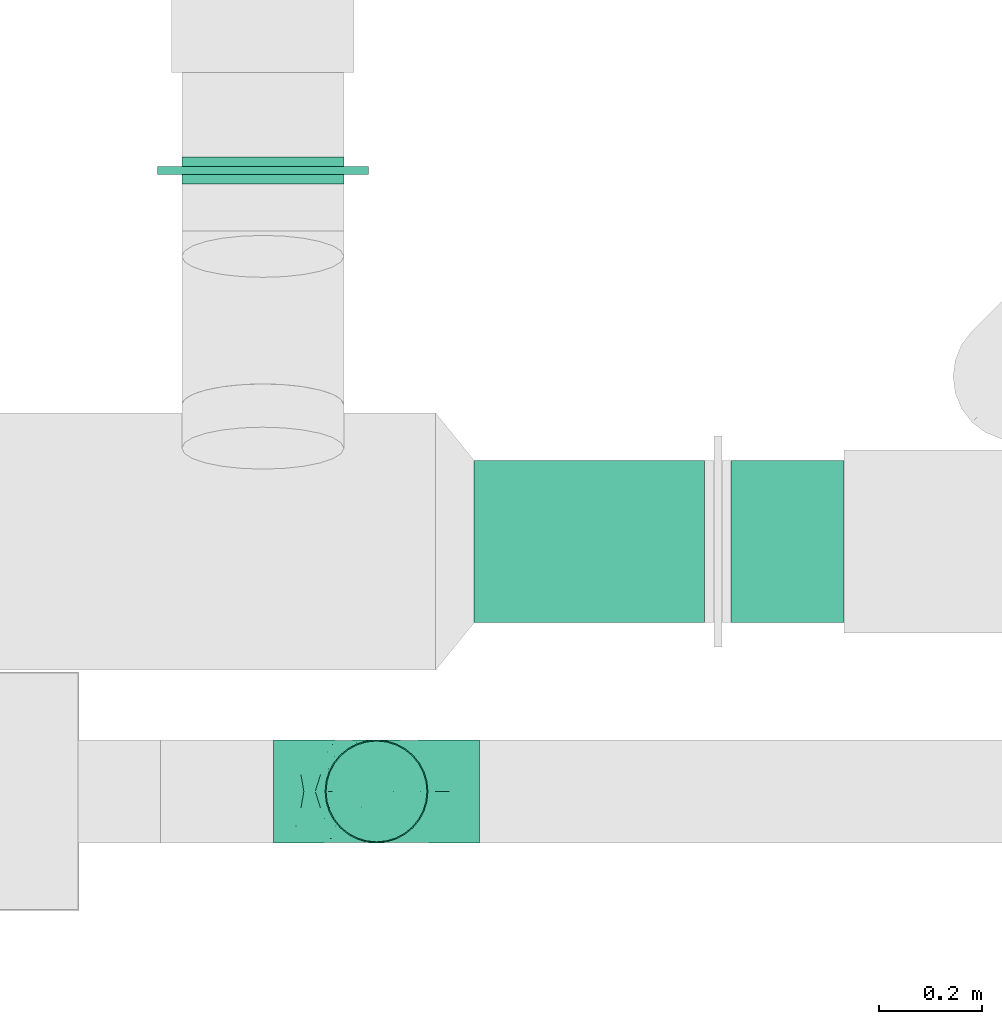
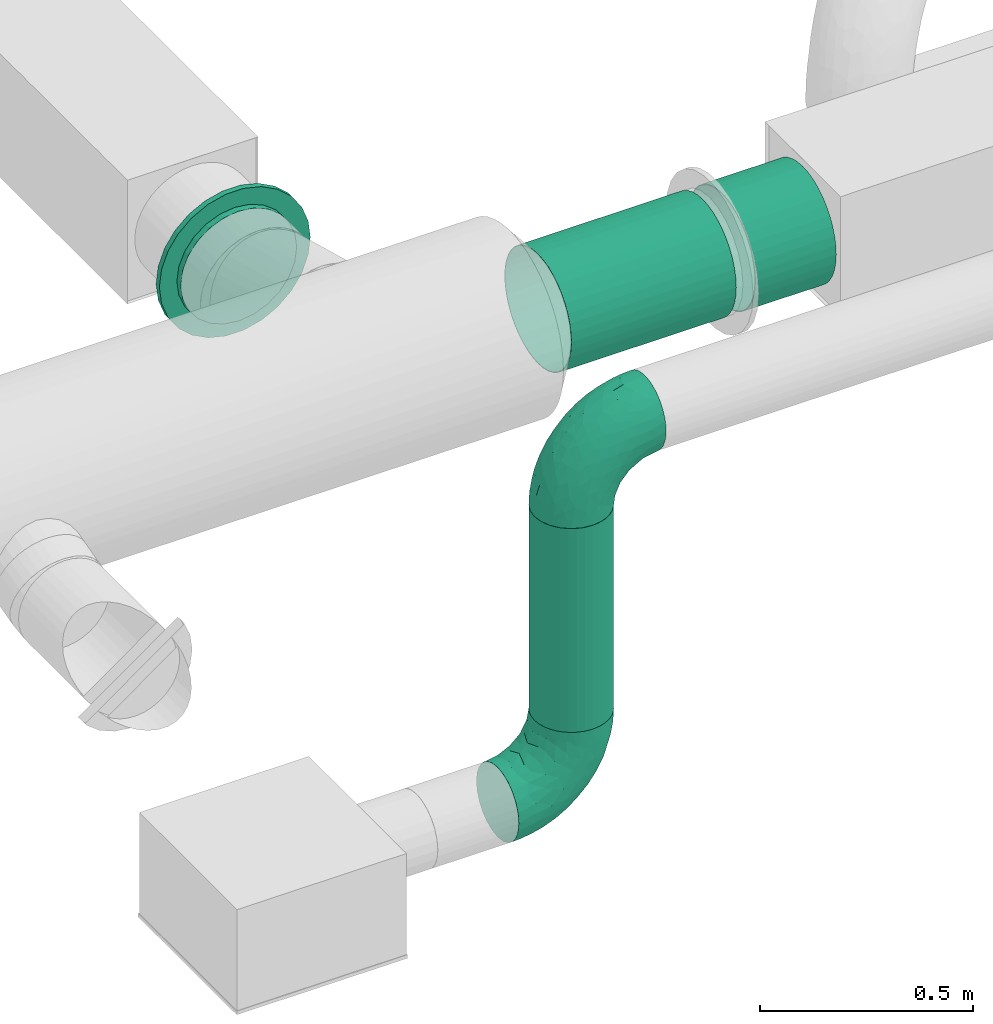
# One storey, part 19 of 31: 3 flow segments, 2 flow fittings, 1 flow controller.
"""IFC2X3 building model written with IfcOpenShell, lengths in millimetres."""

import ifcopenshell
import ifcopenshell.guid

model = None  # the IFC model being written
_history = None  # IfcOwnerHistory: only IFC2X3 demands one
_inside = {}  # id of a spatial element -> (the spatial element, [elements in it])
_under = {}  # id of a project, library or spatial element -> (it, [spatial elements below it])
_declared = {}  # id of a project -> (the project, [libraries it declares])
_typed = {}  # id of a type object -> (the type object, [elements of that type])
_made_of = {}  # id of a material, layer set ... -> (it, [elements and type objects made of it])


def new_model(schema):
    """Start an empty IFC model of exactly this schema.

    Asked for "IFC4X3", IfcOpenShell would pick the latest addendum, in which some entities
    have other attributes; the version numbers below select the first issue.
    IFC2X3 requires an IfcOwnerHistory on every rooted entity: one is made here for all.
    """
    global model, _history
    if schema == "IFC4X3":
        model = ifcopenshell.file(schema_version=(4, 3, 0, 0))
    else:
        model = ifcopenshell.file(schema=schema)
    _inside.clear()
    _under.clear()
    _declared.clear()
    _typed.clear()
    _made_of.clear()
    _history = None
    if model.schema == "IFC2X3":
        org = make("IfcOrganization", Name="unknown")
        user = make(
            "IfcPersonAndOrganization",
            ThePerson=make("IfcPerson", FamilyName="unknown"),
            TheOrganization=org,
        )
        app = make(
            "IfcApplication",
            ApplicationDeveloper=org,
            Version="unknown",
            ApplicationFullName="unknown",
            ApplicationIdentifier="unknown",
        )
        _history = make(
            "IfcOwnerHistory",
            OwningUser=user,
            OwningApplication=app,
            ChangeAction="ADDED",
            CreationDate=0,
        )
    return model


def make(cls, **values):
    """One entity of the class cls with the attributes given. An attribute that is None is left unset."""
    return model.create_entity(
        cls, **{name: value for name, value in values.items() if value is not None}
    )


def entity(cls, *values):
    """Any entity or typed value of the class cls, its attributes in the order of the schema. None: left unset."""
    e = model.create_entity(cls)
    for i, value in enumerate(values):
        if value is not None:
            e[i] = value
    return e


def rooted(cls, **values):
    """An entity with a GlobalId (a new one), such as an element, a storey or a relation."""
    return make(cls, GlobalId=ifcopenshell.guid.new(), OwnerHistory=_history, **values)


def si_unit(unit_type, name, prefix=None):
    """IfcSIUnit, for example si_unit("LENGTHUNIT", "METRE", prefix="MILLI")."""
    return make("IfcSIUnit", UnitType=unit_type, Prefix=prefix, Name=name)


def converted_unit(unit_type, name, factor, base, dimensions=None, offset=None):
    """IfcConversionBasedUnit, such as the inch: factor (a typed value) times the base unit."""
    return make(
        "IfcConversionBasedUnit"
        if offset is None
        else "IfcConversionBasedUnitWithOffset",
        ConversionOffset=offset,
        Dimensions=None
        if dimensions is None
        else entity("IfcDimensionalExponents", *dimensions),
        UnitType=unit_type,
        Name=name,
        ConversionFactor=make(
            "IfcMeasureWithUnit", ValueComponent=factor, UnitComponent=base
        ),
    )


def derived_unit(unit_type, elements):
    """IfcDerivedUnit: a product of units, each with its exponent."""
    return make(
        "IfcDerivedUnit",
        Elements=[
            make("IfcDerivedUnitElement", Unit=unit, Exponent=power)
            for unit, power in elements
        ],
        UnitType=unit_type,
    )


def assignment(units):
    """IfcUnitAssignment: the units of a project."""
    return None if units is None else make("IfcUnitAssignment", Units=units)


def point(xyz):
    """IfcCartesianPoint."""
    return None if xyz is None else make("IfcCartesianPoint", Coordinates=xyz)


def direction(xyz):
    """IfcDirection."""
    return None if xyz is None else make("IfcDirection", DirectionRatios=xyz)


def frame(location, z_axis=None, x_axis=None):
    """IfcAxis2Placement3D, a coordinate frame: its origin and axes. An axis left out is left unset."""
    return make(
        "IfcAxis2Placement3D",
        Location=point(location),
        Axis=direction(z_axis),
        RefDirection=direction(x_axis),
    )


def frame_2d(location, x_axis=None):
    """IfcAxis2Placement2D, a coordinate frame in the plane: its origin and x axis."""
    return make(
        "IfcAxis2Placement2D", Location=point(location), RefDirection=direction(x_axis)
    )


def origin_with_axes():
    """The frame at (0, 0, 0) with the z axis (0, 0, 1) and the x axis (1, 0, 0) written out."""
    return frame((0.0, 0.0, 0.0), z_axis=(0.0, 0.0, 1.0), x_axis=(1.0, 0.0, 0.0))


def origin_2d_with_axis():
    """The frame at (0, 0) in the plane with the x axis (1, 0) written out."""
    return frame_2d((0.0, 0.0), x_axis=(1.0, 0.0))


def place(relative_to, where):
    """IfcLocalPlacement: puts the frame where relative to a parent placement (None: the world)."""
    return make(
        "IfcLocalPlacement", PlacementRelTo=relative_to, RelativePlacement=where
    )


def context(
    kind, dimensions, precision=None, world=None, true_north=None, identifier=None
):
    """IfcGeometricRepresentationContext, for example the 3D "Model" context."""
    return make(
        "IfcGeometricRepresentationContext",
        ContextIdentifier=identifier,
        ContextType=kind,
        CoordinateSpaceDimension=dimensions,
        Precision=precision,
        WorldCoordinateSystem=world,
        TrueNorth=true_north,
    )


def subcontext(parent, identifier, kind, view, scale=None):
    """IfcGeometricRepresentationSubContext, for example "Body" below "Model"."""
    return make(
        "IfcGeometricRepresentationSubContext",
        ContextIdentifier=identifier,
        ContextType=kind,
        ParentContext=parent,
        TargetScale=scale,
        TargetView=view,
    )


def project(units=None, contexts=None):
    """IfcProject with its units and contexts."""
    return rooted(
        "IfcProject",
        Name="project",
        RepresentationContexts=contexts,
        UnitsInContext=assignment(units),
    )


def spatial(cls, under=None, at=None, **own):
    """A site, building, storey or space (cls), placed at a placement, below another one or the project."""
    s = rooted(cls, ObjectPlacement=at, **own)
    if under is not None:
        _under.setdefault(under.id(), (under, []))[1].append(s)
    return s


def profile(cls, at=None, kind="AREA", **sizes):
    """A parametric profile (cls). Its sizes go by their IFC names, for example OverallWidth=200.0."""
    return make(cls, ProfileType=kind, Position=at, **sizes)


def hollow_circle(**sizes):
    """IfcCircleHollowProfileDef."""
    return profile("IfcCircleHollowProfileDef", **sizes)


def extrude(swept, where, along, depth):
    """IfcExtrudedAreaSolid: the profile swept, set in the frame where, extruded along a direction by depth."""
    return make(
        "IfcExtrudedAreaSolid",
        SweptArea=swept,
        Position=where,
        ExtrudedDirection=direction(along),
        Depth=depth,
    )


def faces_of(points, faces, orient=None, outer=None):
    """IfcFace entities. A face is a list of loops; a loop is a list of indices into points, from 0.

    orient and outer hold one flag for each loop. By default every Orientation is true, the
    first loop of a face is its IfcFaceOuterBound and the others are IfcFaceBound.
    """
    made = []
    for i, loops in enumerate(faces):
        bounds = []
        for j, loop in enumerate(loops):
            is_outer = j == 0 if outer is None else outer[i][j]
            bounds.append(
                make(
                    "IfcFaceOuterBound" if is_outer else "IfcFaceBound",
                    Bound=make("IfcPolyLoop", Polygon=[points[k] for k in loop]),
                    Orientation=True if orient is None else orient[i][j],
                )
            )
        made.append(make("IfcFace", Bounds=bounds))
    return made


def open_shell(faces, orient=None, outer=None):
    """The faces of one IfcOpenShell. surface_model builds it on its shared points."""
    return ("IfcOpenShell", faces, orient, outer)


def surface_model(cls, points, shells):
    """IfcFaceBasedSurfaceModel or IfcShellBasedSurfaceModel (cls): surfaces that need not close."""
    shared = [point(p) for p in points]
    made = [make(c, CfsFaces=faces_of(shared, fs, o, b)) for c, fs, o, b in shells]
    if cls == "IfcFaceBasedSurfaceModel":
        return make(cls, FbsmFaces=made)
    return make(cls, SbsmBoundary=made)


def shape(context_of_items, identifier, shape_type, items):
    """IfcShapeRepresentation: the items that make up one representation, for example the "Body"."""
    return make(
        "IfcShapeRepresentation",
        ContextOfItems=context_of_items,
        RepresentationIdentifier=identifier,
        RepresentationType=shape_type,
        Items=items,
    )


def source(mapping_origin, context_of_items, identifier, shape_type, items):
    """IfcRepresentationMap: a shape defined once, which mapped items show again and again."""
    return make(
        "IfcRepresentationMap",
        MappingOrigin=mapping_origin,
        MappedRepresentation=shape(context_of_items, identifier, shape_type, items),
    )


def transform(
    local_origin,
    x_axis=None,
    y_axis=None,
    z_axis=None,
    scale=None,
    scale2=None,
    scale3=None,
    uniform=True,
):
    """IfcCartesianTransformationOperator3D, or its non-uniform kind. x_axis, y_axis, z_axis: its Axis1, 2, 3."""
    if uniform:
        return make(
            "IfcCartesianTransformationOperator3D",
            Axis1=direction(x_axis),
            Axis2=direction(y_axis),
            LocalOrigin=point(local_origin),
            Scale=scale,
            Axis3=direction(z_axis),
        )
    return make(
        "IfcCartesianTransformationOperator3DnonUniform",
        Axis1=direction(x_axis),
        Axis2=direction(y_axis),
        LocalOrigin=point(local_origin),
        Scale=scale,
        Axis3=direction(z_axis),
        Scale2=scale2,
        Scale3=scale3,
    )


def mapped(mapping_source, mapping_target):
    """IfcMappedItem: shows the shape of a source again, moved by a transform."""
    return make(
        "IfcMappedItem", MappingSource=mapping_source, MappingTarget=mapping_target
    )


def made_of(thing, what):
    """Note that an element or type object is made of a material, layer set ...; save() writes the relation."""
    if what is not None:
        _made_of.setdefault(what.id(), (what, []))[1].append(thing)
    return thing


def type_object(cls, material=None, **own):
    """A type object (cls), such as IfcWallType, which elements share."""
    return made_of(rooted(cls, **own), material)


def element(
    cls,
    number,
    at=None,
    inside=None,
    cuts=None,
    type_object=None,
    material=None,
    context=None,
    identifier="Body",
    shape_type=None,
    held_by="IfcProductDefinitionShape",
    body=None,
    shapes=None,
    **own,
):
    """One element of the class cls, such as IfcWall. Its Tag is "e" and its number.

    at: its placement. inside: the storey or other place that contains it. cuts: it is an
    opening in that element (IfcRelVoidsElement). A single representation is given by context,
    identifier, shape_type and body (its items); several are given by shapes. held_by: the class
    of the entity that holds the representations. save() writes the other relations.
    """
    e = rooted(cls, Tag="e%d" % number, ObjectPlacement=at, **own)
    if body is not None:
        shapes = [shape(context, identifier, shape_type, body)]
    if shapes is not None:
        e.Representation = make(held_by, Representations=shapes)
    if inside is not None:
        _inside.setdefault(inside.id(), (inside, []))[1].append(e)
    if cuts is not None:
        rooted(
            "IfcRelVoidsElement", RelatingBuildingElement=cuts, RelatedOpeningElement=e
        )
    if type_object is not None:
        _typed.setdefault(type_object.id(), (type_object, []))[1].append(e)
    return made_of(e, material)


def aggregate(whole, parts):
    """IfcRelAggregates: a whole, such as a stair, and the parts it consists of."""
    return rooted("IfcRelAggregates", RelatingObject=whole, RelatedObjects=parts)


def save(model, path):
    """Write the relations noted so far, then the file.

    IfcRelAggregates (storeys below a building ...), IfcRelContainedInSpatialStructure (elements
    in a storey), IfcRelDefinesByType, IfcRelAssociatesMaterial and IfcRelDeclares: one each for
    every whole, place, type object, material and project.
    """
    for whole, parts in _under.values():
        aggregate(whole, parts)
    for where, things in _inside.values():
        rooted(
            "IfcRelContainedInSpatialStructure",
            RelatedElements=things,
            RelatingStructure=where,
        )
    for kind, things in _typed.values():
        rooted("IfcRelDefinesByType", RelatedObjects=things, RelatingType=kind)
    for what, things in _made_of.values():
        rooted("IfcRelAssociatesMaterial", RelatedObjects=things, RelatingMaterial=what)
    for by, libraries in _declared.values():
        rooted("IfcRelDeclares", RelatingContext=by, RelatedDefinitions=libraries)
    model.write(path)


model = new_model("IFC2X3")

# Units and contexts
model_context = context("Model", 3, precision=0.01, world=frame((0.0, 4.29681676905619e-09, 0.0)), true_north=direction((4.01073788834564e-13, 1.0)))
plan_context = context("Plan", 3, precision=0.01, world=frame((0.0, 4.29681676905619e-09, 0.0)), true_north=direction((4.01073788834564e-13, 1.0)))
body_context = subcontext(model_context, "Body", "Model", "MODEL_VIEW")
ifc_project = project(units=[converted_unit("PLANEANGLEUNIT", "DEGREE", entity("IfcPositiveLengthMeasure", 0.0174532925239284), si_unit("PLANEANGLEUNIT", "RADIAN"), dimensions=[0, 0, 0, 0, 0, 0, 0]), si_unit("AREAUNIT", "SQUARE_METRE"), si_unit("LENGTHUNIT", "METRE", prefix="MILLI"), si_unit("MASSUNIT", "GRAM", prefix="KILO"), si_unit("POWERUNIT", "WATT"), si_unit("PRESSUREUNIT", "PASCAL", prefix="KILO"), si_unit("FORCEUNIT", "NEWTON", prefix="KILO"), si_unit("ELECTRICVOLTAGEUNIT", "VOLT"), si_unit("ELECTRICCURRENTUNIT", "AMPERE"), si_unit("THERMODYNAMICTEMPERATUREUNIT", "DEGREE_CELSIUS"), si_unit("TIMEUNIT", "SECOND"), si_unit("VOLUMEUNIT", "CUBIC_METRE"), derived_unit("LINEARVELOCITYUNIT", [(si_unit("LENGTHUNIT", "METRE"), 1), (si_unit("TIMEUNIT", "SECOND"), -1)]), derived_unit("VOLUMETRICFLOWRATEUNIT", [(si_unit("VOLUMEUNIT", "CUBIC_METRE"), 1), (si_unit("TIMEUNIT", "SECOND"), -1)]), derived_unit("THERMALTRANSMITTANCEUNIT", [(si_unit("POWERUNIT", "WATT"), 1), (si_unit("THERMODYNAMICTEMPERATUREUNIT", "KELVIN"), -1), (si_unit("AREAUNIT", "SQUARE_METRE"), -1)]), derived_unit("SOUNDPRESSUREUNIT", [(si_unit("PRESSUREUNIT", "PASCAL"), 1)])], contexts=[model_context, plan_context])

# Site, building, storey
site_placement = place(None, frame((0.0, -4.29681676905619e-09, 0.0), z_axis=(0.0, 0.0, 1.0), x_axis=(1.0, 0.0, 0.0)))
site = spatial("IfcSite", under=ifc_project, at=site_placement, CompositionType="ELEMENT")
building_placement = place(site_placement, frame((0.0, 4.29681676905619e-09, 0.0), z_axis=(0.0, 0.0, 1.0), x_axis=(1.0, 0.0, 0.0)))
building = spatial("IfcBuilding", under=site, at=building_placement, Name="mc-building", CompositionType="ELEMENT")
storey_placement = place(building_placement, frame((0.0, 0.0, 210900.0), z_axis=(0.0, 0.0, 1.0), x_axis=(1.0, 0.0, 0.0)))
storey = spatial("IfcBuildingStorey", under=building, at=storey_placement, Name="Nivå F", CompositionType="ELEMENT", Elevation=210900.0)

# Flow controller
damper_type = type_object("IfcDamperType", Name="IRIS-031", PredefinedType="BALANCINGDAMPER")
shared_shape_1 = source(origin_with_axes(), body_context, "Body", "SurfaceModel", [
    surface_model("IfcShellBasedSurfaceModel", [(26.0, 78.75, -136.39901), (26.0, 0.0, -157.5), (26.0, 40.764, -152.13332), (26.0, 111.36932, -111.36932), (26.0, -111.36932, -111.36932), (26.0, 152.13332, 40.764), (26.0, 152.13332, -40.764), (26.0, 136.39901, -78.75), (26.0, -78.75, -136.39901), (26.0, -40.764, -152.13332), (26.0, -152.13332, -40.764), (26.0, -136.39901, -78.75), (26.0, 0.0, 157.5), (26.0, 157.5, 0.0), (26.0, 136.39901, 78.75), (26.0, 111.36932, 111.36932), (26.0, 78.75, 136.39901), (26.0, 40.764, 152.13332), (26.0, -40.764, 152.13332), (26.0, -152.13332, 40.764), (26.0, -136.39901, 78.75), (26.0, -157.5, 0.0), (26.0, -78.75, 136.39901), (26.0, -111.36932, 111.36932), (7.8, 0.0, 157.5), (7.8, 40.764, 152.13332), (7.8, 78.75, 136.39901), (7.8, 152.13332, 40.764), (7.8, 111.36932, 111.36932), (7.8, 136.39901, 78.75), (7.8, -152.13332, 40.764), (7.8, -78.75, 136.39901), (7.8, -136.39901, 78.75), (7.8, -111.36932, 111.36932), (7.8, -40.764, 152.13332), (7.8, -111.36932, -111.36932), (7.8, -157.5, 0.0), (7.8, 152.13332, -40.764), (7.8, 111.36932, -111.36932), (7.8, 136.39901, -78.75), (7.8, -78.75, -136.39901), (7.8, 78.75, -136.39901), (7.8, 0.0, -157.5), (7.8, 40.764, -152.13332), (7.8, -136.39901, -78.75), (7.8, -152.13332, -40.764), (7.8, -40.764, -152.13332), (7.8, 157.5, 0.0), (7.8, 116.45328, -168.71169), (7.8, -24.71002, -203.50531), (7.8, 72.694, -191.67833), (7.8, 181.51848, -95.26825), (7.8, 153.4447, -135.94015), (7.8, 199.04307, -49.05971), (7.8, 205.0, 0.0), (7.8, 199.04307, 49.05971), (7.8, -116.45328, 168.71169), (7.8, -181.51848, -95.26825), (7.8, -116.45328, -168.71169), (7.8, -72.694, -191.67833), (7.8, 24.71002, -203.50531), (7.8, -153.4447, -135.94015), (7.8, -205.0, 0.0), (7.8, -199.04307, -49.05971), (7.8, 181.51848, 95.26825), (7.8, 153.4447, 135.94015), (7.8, 116.45328, 168.71169), (7.8, 72.694, 191.67833), (7.8, 24.71002, 203.50531), (7.8, -24.71002, 203.50531), (7.8, -181.51848, 95.26825), (7.8, -199.04307, 49.05971), (7.8, -153.4447, 135.94015), (7.8, -72.694, 191.67833), (-7.8, 24.71002, 203.50531), (-7.8, 72.694, 191.67833), (-7.8, 116.45328, 168.71169), (-7.8, -24.71002, 203.50531), (-7.8, 153.4447, 135.94015), (-7.8, 181.51848, 95.26825), (-7.8, 199.04307, 49.05971), (-7.8, -116.45328, 168.71169), (-7.8, -72.694, 191.67833), (-7.8, -181.51848, 95.26825), (-7.8, -153.4447, 135.94015), (-7.8, -205.0, 0.0), (-7.8, -199.04307, 49.05971), (-7.8, 205.0, 0.0), (-7.8, 199.04307, -49.05971), (-7.8, 181.51848, -95.26825), (-7.8, 116.45328, -168.71169), (-7.8, -116.45328, -168.71169), (-7.8, 153.4447, -135.94015), (-7.8, -24.71002, -203.50531), (-7.8, 72.694, -191.67833), (-7.8, -181.51848, -95.26825), (-7.8, -153.4447, -135.94015), (-7.8, -199.04307, -49.05971), (-7.8, -72.694, -191.67833), (-7.8, 24.71002, -203.50531), (-7.8, 78.75, -136.39901), (-7.8, 0.0, -157.5), (-7.8, 40.764, -152.13332), (-7.8, 111.36932, -111.36932), (-7.8, -111.36932, -111.36932), (-7.8, 152.13332, 40.764), (-7.8, 152.13332, -40.764), (-7.8, 136.39901, -78.75), (-7.8, -78.75, -136.39901), (-7.8, -40.764, -152.13332), (-7.8, -152.13332, -40.764), (-7.8, -136.39901, -78.75), (-7.8, 0.0, 157.5), (-7.8, 157.5, 0.0), (-7.8, 136.39901, 78.75), (-7.8, 111.36932, 111.36932), (-7.8, 78.75, 136.39901), (-7.8, 40.764, 152.13332), (-7.8, -40.764, 152.13332), (-7.8, -152.13332, 40.764), (-7.8, -136.39901, 78.75), (-7.8, -157.5, 0.0), (-7.8, -78.75, 136.39901), (-7.8, -111.36932, 111.36932), (-26.0, 0.0, 157.5), (-26.0, 40.764, 152.13332), (-26.0, 78.75, 136.39901), (-26.0, 152.13332, 40.764), (-26.0, 111.36932, 111.36932), (-26.0, 136.39901, 78.75), (-26.0, -152.13332, 40.764), (-26.0, -78.75, 136.39901), (-26.0, -136.39901, 78.75), (-26.0, -111.36932, 111.36932), (-26.0, -40.764, 152.13332), (-26.0, -111.36932, -111.36932), (-26.0, -157.5, 0.0), (-26.0, 152.13332, -40.764), (-26.0, 111.36932, -111.36932), (-26.0, 136.39901, -78.75), (-26.0, -78.75, -136.39901), (-26.0, 78.75, -136.39901), (-26.0, 0.0, -157.5), (-26.0, 40.764, -152.13332), (-26.0, -136.39901, -78.75), (-26.0, -152.13332, -40.764), (-26.0, -40.764, -152.13332), (-26.0, 157.5, 0.0)], [open_shell([[[0, 1, 2]], [[3, 4, 0]], [[5, 4, 3]], [[6, 3, 7]], [[5, 3, 6]], [[1, 8, 9]], [[1, 0, 8]], [[4, 10, 11]], [[8, 0, 4]], [[4, 12, 10]], [[6, 13, 5]], [[5, 14, 15]], [[5, 15, 16]], [[16, 17, 12]], [[16, 12, 5]], [[12, 18, 10]], [[19, 18, 20]], [[19, 21, 10]], [[20, 22, 23]], [[22, 20, 18]], [[18, 19, 10]], [[4, 5, 12]], [[24, 25, 26]], [[24, 26, 27]], [[28, 29, 27]], [[28, 27, 26]], [[24, 27, 30]], [[31, 32, 33]], [[32, 31, 34]], [[34, 30, 32]], [[34, 24, 30]], [[30, 35, 36]], [[30, 27, 35]], [[27, 37, 35]], [[38, 37, 39]], [[40, 38, 41]], [[37, 38, 40]], [[42, 41, 43]], [[36, 44, 45]], [[35, 44, 36]], [[40, 42, 46]], [[40, 35, 37]], [[42, 40, 41]], [[37, 27, 47]], [[45, 10, 36]], [[44, 11, 45]], [[8, 35, 40]], [[44, 35, 4]], [[9, 40, 46]], [[45, 11, 10]], [[10, 21, 36]], [[9, 8, 40]], [[4, 35, 8]], [[4, 11, 44]], [[1, 9, 46]], [[46, 42, 1]], [[43, 2, 42]], [[41, 0, 43]], [[7, 38, 39]], [[41, 38, 3]], [[6, 39, 37]], [[41, 3, 0]], [[0, 2, 43]], [[13, 6, 37]], [[7, 39, 6]], [[7, 3, 38]], [[47, 13, 37]], [[42, 2, 1]], [[27, 5, 47]], [[29, 14, 27]], [[16, 28, 26]], [[29, 28, 15]], [[17, 26, 25]], [[27, 14, 5]], [[5, 13, 47]], [[17, 16, 26]], [[15, 28, 16]], [[15, 14, 29]], [[12, 17, 25]], [[25, 24, 12]], [[18, 24, 34]], [[20, 32, 30]], [[32, 23, 33]], [[19, 30, 36]], [[34, 22, 18]], [[22, 34, 31]], [[22, 31, 23]], [[31, 33, 23]], [[32, 20, 23]], [[19, 20, 30]], [[36, 21, 19]], [[24, 18, 12]], [[48, 49, 50]], [[51, 48, 52]], [[51, 53, 54]], [[48, 51, 55]], [[56, 57, 48]], [[49, 58, 59]], [[49, 60, 50]], [[61, 58, 57]], [[58, 49, 48]], [[58, 48, 57]], [[57, 62, 63]], [[54, 55, 51]], [[55, 64, 65]], [[55, 65, 66]], [[66, 67, 68]], [[55, 66, 56]], [[69, 66, 68]], [[62, 70, 71]], [[70, 62, 72]], [[73, 56, 66]], [[72, 62, 56]], [[57, 56, 62]], [[69, 73, 66]], [[56, 48, 55]], [[74, 75, 76]], [[77, 74, 76]], [[78, 79, 80]], [[78, 80, 76]], [[81, 76, 80]], [[76, 82, 77]], [[76, 81, 82]], [[83, 84, 85]], [[85, 86, 83]], [[84, 81, 85]], [[80, 85, 81]], [[80, 87, 85]], [[87, 88, 89]], [[87, 89, 90]], [[87, 90, 91]], [[90, 89, 92]], [[93, 90, 94]], [[95, 91, 96]], [[97, 85, 95]], [[91, 95, 87]], [[98, 91, 93]], [[90, 93, 91]], [[99, 93, 94]], [[95, 85, 87]], [[97, 63, 85]], [[95, 57, 97]], [[58, 96, 91]], [[91, 98, 59]], [[95, 96, 61]], [[93, 49, 98]], [[97, 57, 63]], [[63, 62, 85]], [[59, 58, 91]], [[61, 96, 58]], [[61, 57, 95]], [[49, 59, 98]], [[93, 60, 49]], [[94, 50, 99]], [[90, 48, 94]], [[89, 88, 51]], [[90, 92, 52]], [[88, 87, 53]], [[92, 89, 52]], [[94, 48, 50]], [[50, 60, 99]], [[51, 52, 89]], [[53, 51, 88]], [[87, 54, 53]], [[52, 48, 90]], [[99, 60, 93]], [[80, 55, 87]], [[79, 64, 80]], [[66, 78, 76]], [[76, 75, 67]], [[79, 78, 65]], [[74, 68, 75]], [[80, 64, 55]], [[55, 54, 87]], [[67, 66, 76]], [[65, 78, 66]], [[65, 64, 79]], [[68, 67, 75]], [[74, 69, 68]], [[73, 82, 81]], [[77, 82, 69]], [[83, 86, 70]], [[72, 84, 83]], [[56, 81, 84]], [[71, 86, 85]], [[73, 69, 82]], [[73, 81, 56]], [[56, 84, 72]], [[83, 70, 72]], [[71, 70, 86]], [[62, 71, 85]], [[77, 69, 74]], [[100, 101, 102]], [[103, 104, 100]], [[105, 104, 103]], [[106, 103, 107]], [[105, 103, 106]], [[101, 108, 109]], [[101, 100, 108]], [[104, 110, 111]], [[108, 100, 104]], [[104, 112, 110]], [[106, 113, 105]], [[105, 114, 115]], [[105, 115, 116]], [[116, 117, 112]], [[116, 112, 105]], [[112, 118, 110]], [[119, 118, 120]], [[119, 121, 110]], [[120, 122, 123]], [[122, 120, 118]], [[118, 119, 110]], [[104, 105, 112]], [[124, 125, 126]], [[124, 126, 127]], [[128, 129, 127]], [[128, 127, 126]], [[124, 127, 130]], [[131, 132, 133]], [[132, 131, 134]], [[134, 130, 132]], [[134, 124, 130]], [[130, 135, 136]], [[130, 127, 135]], [[127, 137, 135]], [[138, 137, 139]], [[140, 138, 141]], [[137, 138, 140]], [[142, 141, 143]], [[136, 144, 145]], [[135, 144, 136]], [[140, 142, 146]], [[140, 135, 137]], [[142, 140, 141]], [[137, 127, 147]], [[145, 110, 136]], [[144, 111, 145]], [[108, 135, 140]], [[144, 135, 104]], [[109, 140, 146]], [[145, 111, 110]], [[110, 121, 136]], [[109, 108, 140]], [[104, 135, 108]], [[104, 111, 144]], [[101, 109, 146]], [[146, 142, 101]], [[143, 102, 142]], [[141, 100, 143]], [[107, 138, 139]], [[141, 138, 103]], [[106, 139, 137]], [[141, 103, 100]], [[100, 102, 143]], [[113, 106, 137]], [[107, 139, 106]], [[107, 103, 138]], [[147, 113, 137]], [[142, 102, 101]], [[127, 105, 147]], [[129, 114, 127]], [[116, 128, 126]], [[129, 128, 115]], [[117, 126, 125]], [[127, 114, 105]], [[105, 113, 147]], [[117, 116, 126]], [[115, 128, 116]], [[115, 114, 129]], [[112, 117, 125]], [[125, 124, 112]], [[118, 124, 134]], [[120, 132, 130]], [[132, 123, 133]], [[119, 130, 136]], [[134, 122, 118]], [[122, 134, 131]], [[122, 131, 123]], [[131, 133, 123]], [[132, 120, 123]], [[119, 120, 130]], [[136, 121, 119]], [[124, 118, 112]]])]),
])
flow_controller_placement = place(storey_placement, frame((725584.4603, 439216.23836, 3795.0), z_axis=(0.0, 0.0, 1.0), x_axis=(0.0, -1.0, 0.0)))
element("IfcFlowController", 1, at=flow_controller_placement, inside=storey, type_object=damper_type, Name="IRIS-031", context=body_context, shape_type="MappedRepresentation", body=[
    mapped(shared_shape_1, transform((0.0, 0.0, 0.0), scale=1.0)),
])

# Flow fittings
duct_fitting_type = type_object("IfcDuctFittingType", Name="magicirc_elbow_full_radius_001", PredefinedType="BEND")
shared_shape_2 = source(origin_with_axes(), body_context, "Body", "SurfaceModel", [
    surface_model("IfcShellBasedSurfaceModel", [(-200.0, 25.8819, -96.59259), (-200.0, 0.0, -100.0), (-200.0, 96.59259, -25.8819), (-200.0, 50.0, -86.60254), (-200.0, 70.71068, -70.71068), (-200.0, 86.60254, -50.0), (-200.0, 100.0, 0.0), (-200.0, -70.71068, -70.71068), (-200.0, -50.0, -86.60254), (-200.0, -25.8819, -96.59259), (-200.0, -86.60254, -50.0), (-200.0, -96.59259, -25.8819), (-200.0, -96.59259, 25.8819), (-200.0, -100.0, 0.0), (-200.0, 86.60254, 50.0), (-200.0, 96.59259, 25.8819), (-200.0, -50.0, 86.60254), (-200.0, 25.8819, 96.59259), (-200.0, 50.0, 86.60254), (-200.0, 70.71068, 70.71068), (-200.0, -86.60254, 50.0), (-200.0, -70.71068, 70.71068), (-200.0, -25.8819, 96.59259), (-200.0, 0.0, 100.0), (-25.8819, 200.0, -96.59259), (96.59259, 200.0, 25.8819), (0.0, 200.0, -100.0), (-70.71068, 200.0, -70.71068), (-50.0, 200.0, -86.60254), (-86.60254, 200.0, -50.0), (70.71068, 200.0, -70.71068), (25.8819, 200.0, -96.59259), (50.0, 200.0, -86.60254), (96.59259, 200.0, -25.8819), (86.60254, 200.0, -50.0), (100.0, 200.0, 0.0), (-96.59259, 200.0, -25.8819), (-100.0, 200.0, 0.0), (-96.59259, 200.0, 25.8819), (-86.60254, 200.0, 50.0), (-50.0, 200.0, 86.60254), (-25.8819, 200.0, 96.59259), (-70.71068, 200.0, 70.71068), (50.0, 200.0, 86.60254), (70.71068, 200.0, 70.71068), (86.60254, 200.0, 50.0), (25.8819, 200.0, 96.59259), (0.0, 200.0, 100.0), (-170.28345, -80.453, 57.20341), (-151.30505, -62.14272, 74.57098), (-141.47291, -94.23558, 0.0), (-152.48501, -91.13434, 31.26682), (-175.16033, -97.5535, 0.0), (49.44088, 33.32893, 0.0), (56.65771, 47.69157, 17.5513), (30.78646, 10.59845, 0.0), (-115.72747, -62.79147, 65.02361), (-110.24866, -47.46346, 77.46704), (-131.78251, -77.03572, 52.17296), (-155.84565, 81.73243, 67.52503), (-165.38682, 59.81194, 83.11685), (-153.53621, -15.46231, 97.89391), (-99.34826, -9.37473, 94.63603), (-109.04028, 19.17637, 99.9709), (-11.41001, 147.58509, 99.90915), (-66.65717, -62.98288, 31.65851), (-19.65477, -37.28433, 19.69829), (-42.80044, -46.52394, 38.2888), (-76.76667, -58.58513, 50.26593), (-107.75087, -80.71677, 29.70656), (-170.73585, -40.65955, 90.5511), (-172.81551, 101.70087, 19.84455), (-146.92494, 108.70969, 32.98808), (-141.22148, 119.0983, 0.0), (-63.14521, 144.11081, 85.31109), (-80.51529, 161.84448, 66.62709), (-89.41257, 123.59035, 75.49114), (-59.28706, 175.69502, 82.02298), (-159.40173, 10.55746, 99.80411), (77.16386, 85.19497, 0.0), (62.56216, 67.38452, 33.69402), (-101.70087, 172.81551, 19.84455), (-93.96462, 171.01, 43.43771), (-171.01, 93.96462, 43.43771), (-151.20277, 37.27353, 95.35782), (-100.76094, 141.8163, 52.73949), (-123.065, 123.065, 41.02461), (-115.71118, 115.71117, 58.92154), (-108.70969, 146.92494, 32.98808), (-169.09831, 104.89435, 0.0), (-126.3807, 68.32629, 87.09158), (-3.53309, 67.51081, 92.91692), (-29.40722, 29.40721, 91.09367), (0.78973, 37.96478, 81.45071), (-60.00062, -0.36077, 89.58959), (-67.88209, 21.58789, 97.54896), (62.32031, 154.13138, 74.86163), (-141.8163, 100.76094, 52.73949), (91.13434, 152.48501, 31.26682), (80.453, 170.28345, 57.20341), (-18.49849, -12.30744, 60.90175), (8.80323, 19.6267, 65.08263), (-25.42255, 3.46809, 77.76258), (-74.03921, 114.7783, 87.77152), (-87.24231, 87.48345, 91.33971), (-52.29396, 97.96814, 97.88047), (97.5535, 175.16033, 0.0), (15.66986, 158.34417, 98.04921), (39.67143, 143.40046, 88.65468), (-104.89435, 169.09831, 0.0), (-119.0983, 141.22148, 0.0), (-79.31604, 55.69606, 99.29154), (50.31225, 117.34231, 77.16335), (77.03572, 131.78251, 52.17296), (-113.91527, 94.9934, 76.65605), (64.93177, 92.97178, 51.47516), (47.72556, 81.69016, 66.67609), (40.01044, 43.97718, 50.57869), (-17.45546, -26.87288, 41.03287), (-127.86769, 127.86769, 19.95139), (-59.26195, -63.30237, 0.0), (-33.32893, -49.44088, 0.0), (-15.13235, 108.44666, 99.8016), (9.03102, 110.97634, 96.23014), (-35.35458, 66.6809, 99.29493), (-36.40308, 160.4143, 94.8486), (-32.26105, 126.83648, 98.54453), (5.63455, -13.55537, 26.35365), (8.74012, 0.17058, 45.65263), (46.65777, 40.2329, 34.44568), (80.66195, 107.48302, 29.60457), (85.69972, 113.33393, 0.0), (28.17336, 90.6004, 84.77214), (-103.20436, 61.65595, 95.02282), (-132.43349, -38.40548, 87.83865), (-113.33393, -85.69972, 0.0), (-87.1495, -28.94235, 83.35483), (-47.7214, -39.47514, 54.58142), (-52.3084, 125.73797, 93.79051), (25.86889, 52.68176, 71.74074), (63.30237, 59.26195, 0.0), (94.23558, 141.47291, 0.0), (29.54521, 14.24018, 30.32032), (-85.19497, -77.16386, 0.0), (-50.98503, -24.63183, 71.83876), (-81.69017, -47.72556, 66.67609), (-10.59845, -30.78646, 0.0), (12.13203, -12.13203, 0.0), (-160.4143, 36.40307, -94.8486), (-126.83648, 32.26105, -98.54453), (-147.58509, 11.41001, -99.90915), (-59.81194, 165.3868, -83.11686), (-158.34417, -15.66986, -98.0492), (-110.97634, -9.03102, -96.23014), (12.30745, 18.4985, -60.90175), (-19.62669, -8.80321, -65.08265), (-3.46809, 25.42255, -77.76258), (-114.7783, 74.03921, -87.77153), (-87.48346, 87.2423, -91.33971), (-97.96814, 52.29396, -97.88047), (-172.81551, 101.70087, -19.84455), (13.55537, -5.63454, -26.35364), (-0.17055, -8.74011, -45.6526), (26.87289, 17.45547, -41.03286), (-146.92494, 108.70969, -32.98808), (-47.69157, -56.65771, -17.5513), (-123.06501, 123.065, -41.02461), (-127.86769, 127.86769, -19.95139), (-108.70969, 146.92494, -32.98808), (-175.69502, 59.28706, -82.02298), (-161.84448, 80.51529, -66.62709), (-144.11081, 63.14521, -85.31109), (62.98288, 66.65718, -31.65851), (-81.73243, 155.84565, -67.52503), (-141.8163, 100.76093, -52.73949), (-171.01, 93.96462, -43.43771), (-55.69606, 79.31604, -99.29154), (-66.68089, 35.35458, -99.29493), (-152.48501, -91.13434, -31.26682), (-170.28345, -80.45301, -57.20341), (-92.97178, -64.93177, -51.47516), (-81.69017, -47.72556, -66.67608), (-43.97716, -40.01043, -50.57869), (-10.55746, 159.40173, -99.80411), (15.46231, 153.53621, -97.89391), (-154.13138, -62.32031, -74.86163), (-143.40046, -39.67143, -88.65468), (-37.27353, 151.20276, -95.35782), (-107.48302, -80.66195, -29.60457), (0.36078, 60.00061, -89.58959), (-29.40721, 29.40721, -91.09366), (-21.58789, 67.88208, -97.54896), (-100.76094, 141.8163, -52.73949), (-93.96462, 171.01, -43.43771), (-101.70087, 172.81551, -19.84455), (-19.17637, 109.04027, -99.9709), (-123.59035, 89.41257, -75.49114), (62.14272, 151.30505, -74.57098), (40.65955, 170.73585, -90.5511), (46.52395, 42.80044, -38.28881), (37.28435, 19.6548, -19.69829), (-68.3263, 126.38069, -87.09158), (-67.51081, 3.53309, -92.91692), (-37.96476, -0.78971, -81.45071), (58.58512, 76.76664, -50.26592), (-67.38452, -62.56216, -33.69402), (80.45301, 170.28345, -57.20341), (80.71677, 107.75087, -29.70656), (38.40548, 132.43348, -87.83865), (62.79147, 115.72747, -65.02361), (47.46347, 110.24866, -77.46703), (91.13434, 152.48501, -31.26682), (-40.2329, -46.65777, -34.44568), (-90.60041, -28.17337, -84.77214), (77.03572, 131.78251, -52.17296), (9.37473, 99.34825, -94.63603), (-117.34231, -50.31225, -77.16335), (-131.78251, -77.03572, -52.17296), (-94.99341, 113.91526, -76.65605), (-108.44666, 15.13234, -99.8016), (-61.65596, 103.20434, -95.02282), (28.94235, 87.1495, -83.35483), (39.47513, 47.72139, -54.58143), (-125.73797, 52.30839, -93.79051), (-52.68177, -25.86889, -71.74075), (-115.71118, 115.71117, -58.92154), (-14.24018, -29.54521, -30.32033), (24.63182, 50.98504, -71.83876), (47.72556, 81.69017, -66.67609)], [open_shell([[[0, 1, 2]], [[3, 0, 4]], [[2, 5, 4]], [[0, 2, 4]], [[6, 1, 7]], [[8, 7, 9]], [[7, 1, 9]], [[10, 11, 7]], [[12, 11, 13]], [[12, 7, 11]], [[2, 1, 6]], [[14, 15, 6]], [[16, 14, 7]], [[14, 17, 18]], [[19, 14, 18]], [[17, 14, 16]], [[20, 21, 12]], [[16, 12, 21]], [[16, 22, 17]], [[16, 7, 12]], [[17, 22, 23]], [[14, 6, 7]], [[24, 25, 26]], [[27, 24, 28]], [[25, 27, 29]], [[24, 27, 25]], [[30, 26, 25]], [[31, 30, 32]], [[31, 26, 30]], [[30, 33, 34]], [[35, 33, 25]], [[33, 30, 25]], [[25, 29, 36]], [[37, 38, 39]], [[25, 37, 39]], [[40, 41, 39]], [[40, 39, 42]], [[43, 39, 41]], [[25, 44, 45]], [[44, 25, 43]], [[41, 46, 43]], [[43, 25, 39]], [[47, 46, 41]], [[37, 25, 36]], [[21, 48, 49]], [[50, 51, 52]], [[53, 54, 55]], [[56, 57, 49]], [[48, 51, 58]], [[59, 19, 60]], [[61, 62, 63]], [[47, 41, 64]], [[65, 66, 67]], [[68, 69, 65]], [[16, 21, 49]], [[19, 18, 60]], [[16, 70, 22]], [[71, 72, 73]], [[74, 75, 76]], [[77, 40, 42]], [[19, 59, 14]], [[23, 78, 17]], [[54, 79, 80]], [[38, 81, 82]], [[70, 61, 22]], [[21, 20, 48]], [[83, 15, 14]], [[83, 72, 71]], [[84, 18, 17]], [[6, 15, 71]], [[85, 86, 87]], [[85, 82, 88]], [[71, 73, 89]], [[22, 61, 23]], [[90, 60, 84]], [[91, 92, 93]], [[65, 67, 68]], [[94, 92, 95]], [[43, 96, 44]], [[97, 72, 83]], [[25, 45, 98]], [[44, 99, 45]], [[75, 42, 39]], [[100, 101, 102]], [[103, 104, 105]], [[98, 106, 25]], [[46, 107, 108]], [[108, 96, 43]], [[109, 110, 81]], [[104, 111, 105]], [[112, 113, 96]], [[98, 45, 99]], [[114, 59, 90]], [[108, 43, 46]], [[115, 116, 117]], [[88, 81, 110]], [[67, 66, 118]], [[110, 73, 119]], [[109, 81, 37]], [[95, 111, 63]], [[120, 121, 65]], [[86, 119, 72]], [[122, 123, 64]], [[111, 124, 105]], [[75, 74, 77]], [[64, 125, 126]], [[127, 128, 118]], [[80, 129, 54]], [[41, 40, 125]], [[125, 64, 41]], [[123, 107, 64]], [[98, 130, 131]], [[132, 108, 123]], [[47, 107, 46]], [[78, 23, 61]], [[20, 12, 51]], [[133, 63, 111]], [[130, 98, 113]], [[115, 117, 80]], [[82, 39, 38]], [[75, 85, 76]], [[62, 61, 134]], [[78, 63, 84]], [[56, 49, 58]], [[70, 49, 134]], [[51, 12, 52]], [[51, 135, 69]], [[115, 130, 113]], [[82, 81, 88]], [[62, 136, 94]], [[62, 94, 95]], [[67, 118, 137]], [[69, 58, 51]], [[77, 125, 40]], [[126, 138, 105]], [[112, 96, 108]], [[99, 96, 113]], [[117, 116, 139]], [[66, 127, 118]], [[92, 102, 93]], [[92, 94, 102]], [[63, 78, 61]], [[84, 17, 78]], [[64, 107, 47]], [[108, 107, 123]], [[84, 60, 18]], [[59, 60, 90]], [[87, 114, 76]], [[104, 103, 114]], [[114, 87, 97]], [[104, 114, 90]], [[63, 133, 84]], [[138, 103, 105]], [[90, 133, 104]], [[63, 62, 95]], [[91, 124, 92]], [[122, 64, 126]], [[92, 124, 95]], [[111, 95, 124]], [[140, 79, 54]], [[131, 141, 98]], [[88, 86, 85]], [[75, 39, 82]], [[76, 85, 87]], [[75, 82, 85]], [[14, 59, 83]], [[97, 87, 86]], [[83, 59, 97]], [[114, 97, 59]], [[117, 142, 129]], [[65, 69, 143]], [[136, 62, 134]], [[102, 101, 93]], [[144, 94, 136]], [[137, 100, 144]], [[57, 136, 134]], [[136, 145, 144]], [[101, 139, 93]], [[91, 132, 123]], [[93, 139, 132]], [[91, 123, 122]], [[93, 132, 91]], [[132, 116, 112]], [[144, 100, 102]], [[128, 100, 118]], [[144, 102, 94]], [[137, 144, 145]], [[137, 145, 68]], [[100, 137, 118]], [[56, 68, 145]], [[69, 68, 58]], [[101, 128, 117]], [[132, 139, 116]], [[101, 117, 139]], [[129, 80, 117]], [[68, 67, 137]], [[65, 143, 120]], [[127, 146, 147]], [[55, 127, 147]], [[66, 146, 127]], [[128, 127, 142]], [[117, 128, 142]], [[100, 128, 101]], [[138, 125, 74]], [[122, 105, 124]], [[105, 122, 126]], [[91, 122, 124]], [[125, 138, 126]], [[138, 74, 103]], [[74, 76, 103]], [[114, 103, 76]], [[132, 112, 108]], [[112, 116, 115]], [[12, 13, 52]], [[106, 98, 141]], [[106, 35, 25]], [[37, 81, 38]], [[88, 110, 119]], [[97, 86, 72]], [[72, 119, 73]], [[88, 119, 86]], [[6, 71, 89]], [[83, 71, 15]], [[75, 77, 42]], [[125, 77, 74]], [[49, 70, 16]], [[61, 70, 134]], [[51, 48, 20]], [[49, 48, 58]], [[96, 99, 44]], [[98, 99, 113]], [[80, 79, 130]], [[130, 115, 80]], [[112, 115, 113]], [[68, 56, 58]], [[57, 56, 145]], [[136, 57, 145]], [[49, 57, 134]], [[65, 121, 66]], [[127, 55, 142]], [[84, 133, 90]], [[111, 104, 133]], [[130, 79, 131]], [[135, 51, 50]], [[135, 143, 69]], [[142, 55, 54]], [[142, 54, 129]], [[140, 54, 53]], [[66, 121, 146]], [[148, 149, 150]], [[28, 151, 27]], [[152, 150, 153]], [[154, 155, 156]], [[150, 0, 148]], [[157, 158, 159]], [[89, 160, 6]], [[161, 162, 163]], [[164, 160, 73]], [[121, 165, 146]], [[166, 167, 168]], [[169, 170, 171]], [[140, 53, 172]], [[27, 173, 29]], [[174, 175, 164]], [[176, 177, 159]], [[178, 10, 179]], [[180, 181, 182]], [[178, 52, 11]], [[183, 26, 184]], [[185, 8, 186]], [[0, 3, 148]], [[9, 186, 8]], [[187, 28, 24]], [[31, 184, 26]], [[178, 11, 10]], [[179, 10, 7]], [[178, 188, 135]], [[7, 8, 185]], [[152, 186, 9]], [[189, 190, 191]], [[158, 176, 159]], [[167, 73, 110]], [[192, 168, 193]], [[166, 168, 192]], [[193, 36, 29]], [[36, 194, 37]], [[191, 176, 195]], [[171, 170, 196]], [[194, 193, 168]], [[160, 175, 2]], [[197, 32, 30]], [[198, 184, 31]], [[173, 27, 151]], [[169, 3, 4]], [[26, 183, 24]], [[199, 200, 163]], [[187, 201, 151]], [[202, 190, 203]], [[31, 32, 198]], [[199, 172, 200]], [[172, 199, 204]], [[165, 143, 205]], [[30, 34, 206]], [[207, 172, 204]], [[89, 73, 160]], [[198, 197, 208]], [[9, 1, 152]], [[209, 210, 197]], [[170, 4, 5]], [[211, 106, 141]], [[205, 212, 165]], [[213, 186, 153]], [[211, 214, 206]], [[34, 33, 211]], [[215, 195, 184]], [[194, 168, 110]], [[1, 0, 150]], [[216, 217, 185]], [[194, 110, 109]], [[218, 173, 201]], [[219, 153, 150]], [[220, 195, 176]], [[188, 178, 217]], [[180, 182, 205]], [[175, 5, 2]], [[170, 174, 196]], [[206, 197, 30]], [[209, 197, 214]], [[215, 184, 208]], [[183, 195, 187]], [[211, 33, 106]], [[211, 131, 207]], [[180, 188, 217]], [[33, 35, 106]], [[215, 221, 189]], [[215, 189, 191]], [[199, 163, 222]], [[207, 214, 211]], [[169, 148, 3]], [[149, 223, 159]], [[216, 185, 186]], [[179, 185, 217]], [[182, 181, 224]], [[200, 161, 163]], [[190, 156, 203]], [[190, 189, 156]], [[195, 183, 184]], [[187, 24, 183]], [[150, 152, 1]], [[186, 152, 153]], [[187, 151, 28]], [[173, 151, 201]], [[225, 218, 196]], [[158, 157, 218]], [[218, 225, 192]], [[158, 218, 201]], [[195, 220, 187]], [[223, 157, 159]], [[201, 220, 158]], [[195, 215, 191]], [[202, 177, 190]], [[219, 150, 149]], [[190, 177, 191]], [[176, 191, 177]], [[120, 143, 165]], [[135, 50, 178]], [[164, 166, 174]], [[170, 5, 175]], [[196, 174, 225]], [[170, 175, 174]], [[29, 173, 193]], [[192, 225, 166]], [[193, 173, 192]], [[218, 192, 173]], [[182, 226, 212]], [[172, 207, 79]], [[221, 215, 208]], [[156, 155, 203]], [[227, 189, 221]], [[222, 154, 227]], [[210, 221, 208]], [[221, 228, 227]], [[155, 224, 203]], [[202, 213, 153]], [[203, 224, 213]], [[202, 153, 219]], [[203, 213, 202]], [[213, 181, 216]], [[227, 154, 156]], [[162, 154, 163]], [[227, 156, 189]], [[222, 227, 228]], [[222, 228, 204]], [[154, 222, 163]], [[209, 204, 228]], [[207, 204, 214]], [[155, 162, 182]], [[213, 224, 181]], [[155, 182, 224]], [[212, 205, 182]], [[204, 199, 222]], [[172, 79, 140]], [[161, 55, 147]], [[146, 161, 147]], [[200, 55, 161]], [[162, 161, 226]], [[182, 162, 226]], [[154, 162, 155]], [[223, 148, 171]], [[219, 159, 177]], [[159, 219, 149]], [[202, 219, 177]], [[148, 223, 149]], [[223, 171, 157]], [[171, 196, 157]], [[218, 157, 196]], [[213, 216, 186]], [[216, 181, 180]], [[52, 178, 50]], [[52, 13, 11]], [[175, 160, 164]], [[6, 160, 2]], [[174, 166, 225]], [[167, 164, 73]], [[168, 167, 110]], [[164, 167, 166]], [[37, 194, 109]], [[193, 194, 36]], [[170, 169, 4]], [[148, 169, 171]], [[197, 198, 32]], [[184, 198, 208]], [[211, 206, 34]], [[197, 206, 214]], [[185, 179, 7]], [[178, 179, 217]], [[205, 143, 188]], [[188, 180, 205]], [[216, 180, 217]], [[204, 209, 214]], [[210, 209, 228]], [[221, 210, 228]], [[197, 210, 208]], [[172, 53, 200]], [[161, 146, 226]], [[187, 220, 201]], [[176, 158, 220]], [[188, 143, 135]], [[131, 211, 141]], [[131, 79, 207]], [[226, 146, 165]], [[226, 165, 212]], [[120, 165, 121]], [[200, 53, 55]]])]),
])
for number, where, z_axis, x_axis, name in (
    (2, (725805.46533, 438009.23478, 2965.0), (0.0, -1.0, 0.0), (1.0, 0.0, 0.0), "magicirc_elbow_full_radius_001"),
    (3, (725805.46533, 438009.23478, 3950.0), (0.0, 1.0, 0.0), (0.0, 0.0, 1.0), "magicirc_elbow_full_radius_001"),
):
    element("IfcFlowFitting", number, at=place(storey_placement, frame(where, z_axis=z_axis, x_axis=x_axis)), inside=storey, type_object=duct_fitting_type, Name=name, context=body_context, shape_type="MappedRepresentation", body=[
        mapped(shared_shape_2, transform((0.0, 0.0, 0.0), scale=1.0)),
    ])

# Flow segments
duct_segment_type = type_object("IfcDuctSegmentType", Name="KK001T - Spiro kanaler, Forsinket stål", PredefinedType="RIGIDSEGMENT")
shared_shape_3 = source(origin_with_axes(), body_context, "Body", "SweptSolid", [
    extrude(hollow_circle(Radius=157.5, WallThickness=2.0, at=origin_2d_with_axis()), frame((0.0, 0.0, 0.0), z_axis=(1.0, 0.0, 0.0), x_axis=(0.0, 1.0, 0.0)), (0.0, 0.0, 1.0), 447.6),
])
flow_segment_1_placement = place(storey_placement, frame((725995.39996, 438494.89839, 3950.0), z_axis=(0.0, 0.0, 1.0), x_axis=(1.0, 0.0, 0.0)))
element("IfcFlowSegment", 4, at=flow_segment_1_placement, inside=storey, type_object=duct_segment_type, Name="KK001T - Spiro kanaler, Forsinket stål", context=body_context, shape_type="MappedRepresentation", body=[
    mapped(shared_shape_3, transform((0.0, 0.0, 0.0), scale=1.0)),
])
shared_shape_4 = source(origin_with_axes(), body_context, "Body", "SweptSolid", [
    extrude(hollow_circle(Radius=157.5, WallThickness=2.0, at=origin_2d_with_axis()), frame((0.0, 0.0, 0.0), z_axis=(1.0, 0.0, 0.0), x_axis=(0.0, 1.0, 0.0)), (0.0, 0.0, 1.0), 219.6),
])
flow_segment_2_placement = place(storey_placement, frame((726495.0256, 438494.89839, 3950.0), z_axis=(0.0, 0.0, 1.0), x_axis=(1.0, 0.0, 0.0)))
element("IfcFlowSegment", 5, at=flow_segment_2_placement, inside=storey, type_object=duct_segment_type, Name="KK001T - Spiro kanaler, Forsinket stål", context=body_context, shape_type="MappedRepresentation", body=[
    mapped(shared_shape_4, transform((0.0, 0.0, 0.0), scale=1.0)),
])
shared_shape_5 = source(origin_with_axes(), body_context, "Body", "SweptSolid", [
    extrude(hollow_circle(Radius=100.0, WallThickness=2.0, at=origin_2d_with_axis()), frame((0.0, 0.0, 0.0), z_axis=(1.0, 0.0, 0.0), x_axis=(0.0, 1.0, 0.0)), (0.0, 0.0, 1.0), 585.0),
])
flow_segment_3_placement = place(storey_placement, frame((725805.46533, 438009.23478, 3165.0), z_axis=(-1.0, 0.0, 0.0), x_axis=(0.0, 0.0, 1.0)))
element("IfcFlowSegment", 6, at=flow_segment_3_placement, inside=storey, type_object=duct_segment_type, Name="KK001T - Spiro kanaler, Forsinket stål", context=body_context, shape_type="MappedRepresentation", body=[
    mapped(shared_shape_5, transform((0.0, 0.0, 0.0), scale=1.0)),
])

save(model, "model.ifc")
